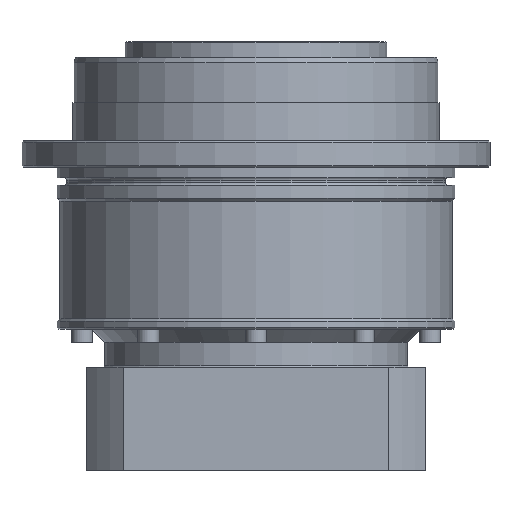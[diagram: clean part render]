
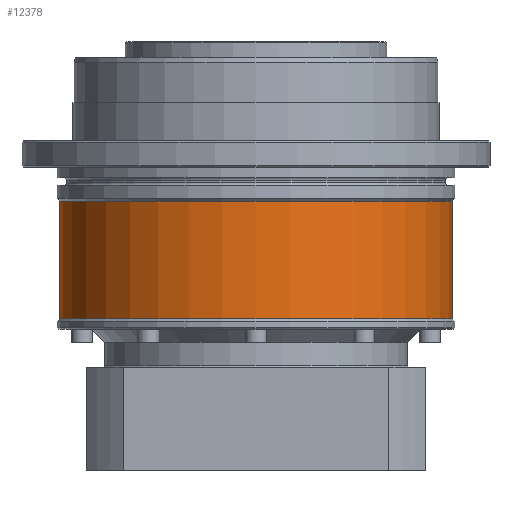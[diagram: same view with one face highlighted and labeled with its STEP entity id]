
A CAD part, front view. The second image highlights one B-rep face of the part: STEP entity #12378.
In plain terms, the highlighted cylindrical face has radius 75 mm (diameter 150 mm), a partial arc.
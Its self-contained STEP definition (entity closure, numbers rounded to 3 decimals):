
#451 = EDGE_LOOP ( 'NONE', ( #9383, #8841, #629, #10075 ) ) ;
#629 = ORIENTED_EDGE ( 'NONE', *, *, #2021, .T. ) ;
#847 = EDGE_CURVE ( 'NONE', #8477, #7525, #12874, .T. ) ;
#887 = DIRECTION ( 'NONE',  ( 0., 0., 1. ) ) ;
#1089 = CARTESIAN_POINT ( 'NONE',  ( 75., 0., -100. ) ) ;
#2021 = EDGE_CURVE ( 'NONE', #13239, #8477, #10194, .T. ) ;
#2207 = EDGE_CURVE ( 'NONE', #13239, #11369, #9697, .T. ) ;
#2343 = CARTESIAN_POINT ( 'NONE',  ( 0., 0., -100. ) ) ;
#2994 = CARTESIAN_POINT ( 'NONE',  ( 75., 0., -54.97 ) ) ;
#4231 = AXIS2_PLACEMENT_3D ( 'NONE', #10666, #4345, #11696 ) ;
#4345 = DIRECTION ( 'NONE',  ( 0., 0., -1. ) ) ;
#5110 = CARTESIAN_POINT ( 'NONE',  ( 0., 0., -54.97 ) ) ;
#5485 = CARTESIAN_POINT ( 'NONE',  ( -75., 0., -54.97 ) ) ;
#5529 = DIRECTION ( 'NONE',  ( 0., 0., 1. ) ) ;
#5919 = AXIS2_PLACEMENT_3D ( 'NONE', #2343, #5529, #12793 ) ;
#6177 = DIRECTION ( 'NONE',  ( -1., 0., 0. ) ) ;
#7244 = CARTESIAN_POINT ( 'NONE',  ( 75., 0., -100. ) ) ;
#7525 = VERTEX_POINT ( 'NONE', #5485 ) ;
#8477 = VERTEX_POINT ( 'NONE', #2994 ) ;
#8841 = ORIENTED_EDGE ( 'NONE', *, *, #2207, .F. ) ;
#9383 = ORIENTED_EDGE ( 'NONE', *, *, #9520, .F. ) ;
#9520 = EDGE_CURVE ( 'NONE', #11369, #7525, #12865, .T. ) ;
#9697 = CIRCLE ( 'NONE', #4231, 75. ) ;
#9865 = VECTOR ( 'NONE', #13366, 1000. ) ;
#9875 = AXIS2_PLACEMENT_3D ( 'NONE', #5110, #12406, #6177 ) ;
#10075 = ORIENTED_EDGE ( 'NONE', *, *, #847, .T. ) ;
#10194 = LINE ( 'NONE', #1089, #9865 ) ;
#10382 = CYLINDRICAL_SURFACE ( 'NONE', #5919, 75. ) ;
#10552 = CARTESIAN_POINT ( 'NONE',  ( -75., 0., -100. ) ) ;
#10666 = CARTESIAN_POINT ( 'NONE',  ( 0., 0., -100. ) ) ;
#10831 = VECTOR ( 'NONE', #887, 1000. ) ;
#11369 = VERTEX_POINT ( 'NONE', #10552 ) ;
#11696 = DIRECTION ( 'NONE',  ( -1., 0., 0. ) ) ;
#12378 = ADVANCED_FACE ( 'NONE', ( #13373 ), #10382, .T. ) ;
#12406 = DIRECTION ( 'NONE',  ( 0., 0., -1. ) ) ;
#12793 = DIRECTION ( 'NONE',  ( 1., 0., 0. ) ) ;
#12865 = LINE ( 'NONE', #13371, #10831 ) ;
#12874 = CIRCLE ( 'NONE', #9875, 75. ) ;
#13239 = VERTEX_POINT ( 'NONE', #7244 ) ;
#13366 = DIRECTION ( 'NONE',  ( 0., 0., 1. ) ) ;
#13371 = CARTESIAN_POINT ( 'NONE',  ( -75., 0., -100. ) ) ;
#13373 = FACE_OUTER_BOUND ( 'NONE', #451, .T. ) ;
